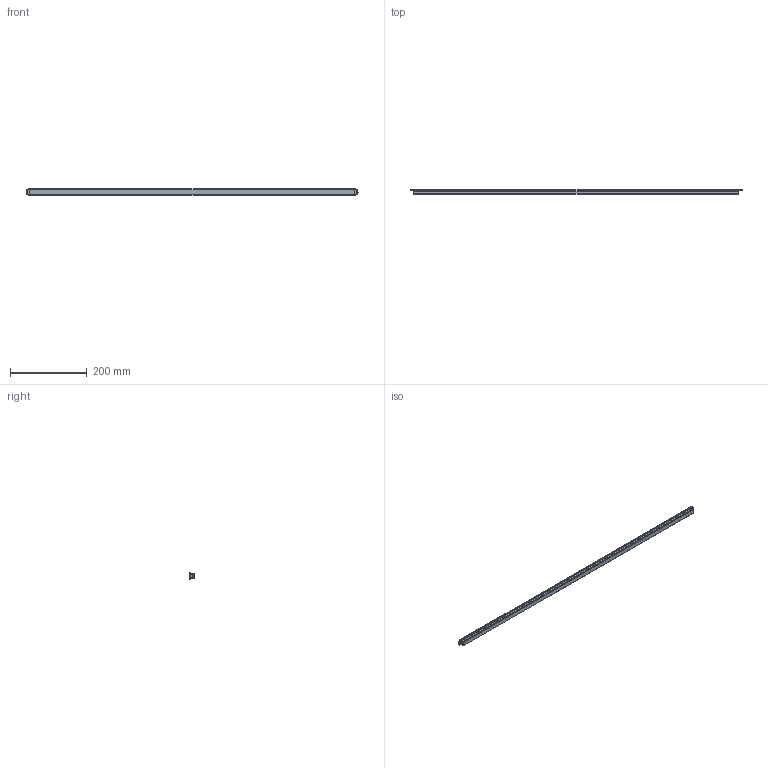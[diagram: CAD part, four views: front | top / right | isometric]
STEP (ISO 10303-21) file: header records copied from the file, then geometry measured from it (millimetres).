
FILE_DESCRIPTION(/* description */ (''),/* implementation_level */ '2;1');
FILE_NAME(/* name */ '6113031_Malindi_Aluprofil_sldprt.stp',/* time_stamp */ '2019-06-07T07:36:11+02:00',/* author */ (''),/* organization */ (''),/* preprocessor_version */ 'ST-DEVELOPER v16.7',/* originating_system */ 'SIEMENS PLM Software NX 12.0',/* authorisation */ '');
FILE_SCHEMA (('AUTOMOTIVE_DESIGN { 1 0 10303 214 3 1 1 1 }'));
Length unit declared in the file: millimetre
Products named in the file (1): p.sc0DF892D9ppv8
Bounding box: 867 x 11.28 x 17 mm (x, y, z)
Volume: 129121.7 mm3; surface area: 68718.7 mm2
Topology: 1 solids, 1 shells, 206 faces, 570 edges, 368 vertices
Faces by surface type: plane 93, cylinder 79, bspline 12, torus 12, cone 8, sphere 2
Entity records: 7615 total; most frequent: CARTESIAN_POINT 2219, ORIENTED_EDGE 1140, DIRECTION 1130, EDGE_CURVE 570, AXIS2_PLACEMENT_3D 391, VERTEX_POINT 368, LINE 348, VECTOR 348
